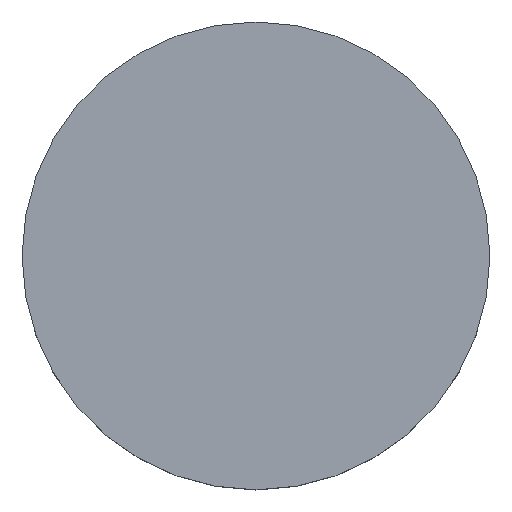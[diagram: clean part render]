
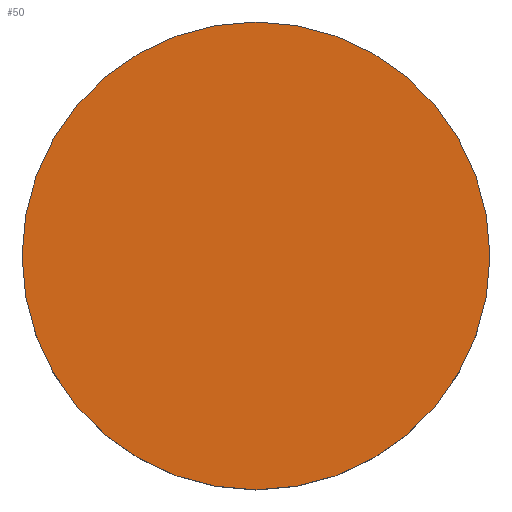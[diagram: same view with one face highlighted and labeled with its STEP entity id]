
A CAD part, top view. The second image highlights one B-rep face of the part: STEP entity #50.
In plain terms, the highlighted planar face has unit normal (0, 0, 1).
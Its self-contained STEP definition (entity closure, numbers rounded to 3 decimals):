
#21 = EDGE_CURVE('',#22,#22,#24,.T.);
#22 = VERTEX_POINT('',#23);
#23 = CARTESIAN_POINT('',(11.4,5.7,2.2));
#24 = CIRCLE('',#25,5.7);
#25 = AXIS2_PLACEMENT_3D('',#26,#27,#28);
#26 = CARTESIAN_POINT('',(5.7,5.7,2.2));
#27 = DIRECTION('',(0.,0.,1.));
#28 = DIRECTION('',(1.,0.,-0.));
#50 = ADVANCED_FACE('',(#51),#54,.T.);
#51 = FACE_BOUND('',#52,.T.);
#52 = EDGE_LOOP('',(#53));
#53 = ORIENTED_EDGE('',*,*,#21,.T.);
#54 = PLANE('',#55);
#55 = AXIS2_PLACEMENT_3D('',#56,#57,#58);
#56 = CARTESIAN_POINT('',(5.7,5.7,2.2));
#57 = DIRECTION('',(0.,0.,1.));
#58 = DIRECTION('',(1.,0.,-0.));
